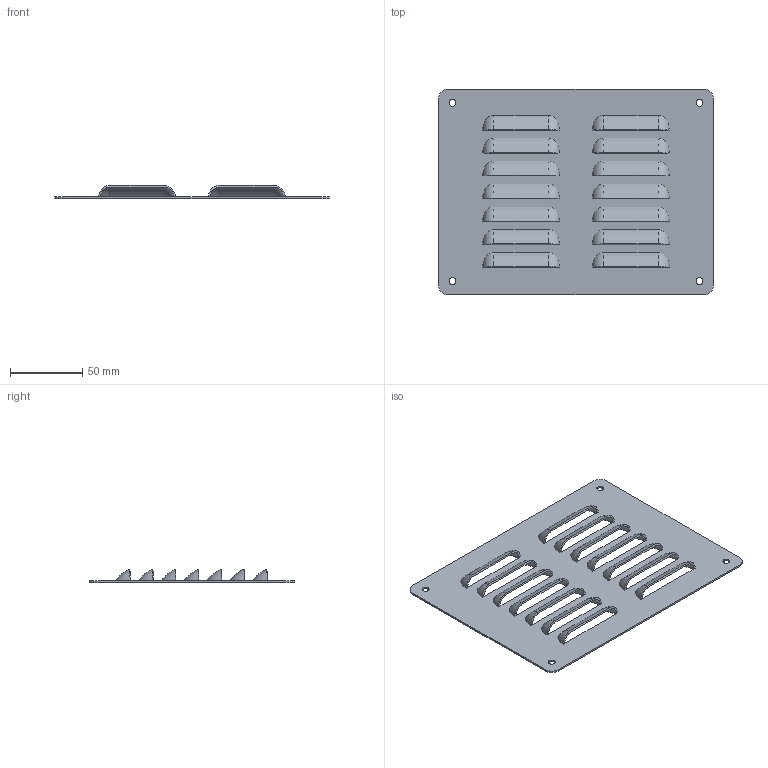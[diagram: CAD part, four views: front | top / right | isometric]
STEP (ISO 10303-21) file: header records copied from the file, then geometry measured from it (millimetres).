
FILE_DESCRIPTION((''),'2;1');
FILE_NAME('SCE-AVK64SS_ASM','2021-10-18T15:04:28',('mikek'),('SAGINAW CONTROL & ENGINEERING'),'CREO PARAMETRIC BY PTC INC, 2017260','CREO PARAMETRIC BY PTC INC, 2017260','');
FILE_SCHEMA(('AUTOMOTIVE_DESIGN { 1 0 10303 214 1 1 1 1 }'));
Length unit declared in the file: inch
Products named in the file (3): 110737; 102046; SCE-AVK64SS_ASM
Assembly tree (2 placements, depth 2):
  SCE-AVK64SS_ASM
    110737
    102046
Bounding box: 190.5 x 142.88 x 9.07 mm (x, y, z)
Volume: 36143.1 mm3; surface area: 62174.4 mm2
Topology: 1 solids, 1 shells, 214 faces, 524 edges, 312 vertices
Faces by surface type: bspline 84, torus 56, cylinder 40, plane 34
Entity records: 11069 total; most frequent: CARTESIAN_POINT 5679, ORIENTED_EDGE 1048, DIRECTION 762, EDGE_CURVE 524, VERTEX_POINT 312, VECTOR 276, LINE 276, EDGE_LOOP 250
